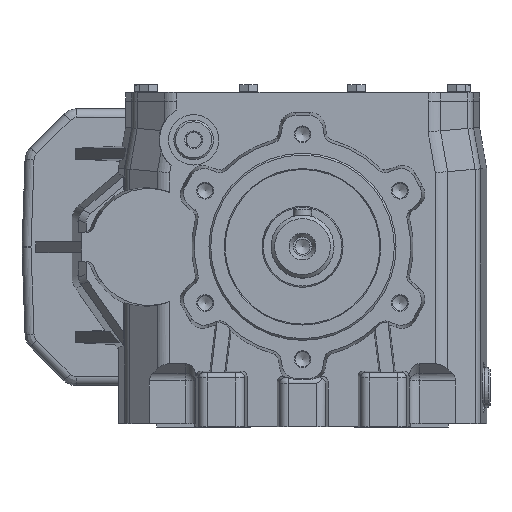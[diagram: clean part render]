
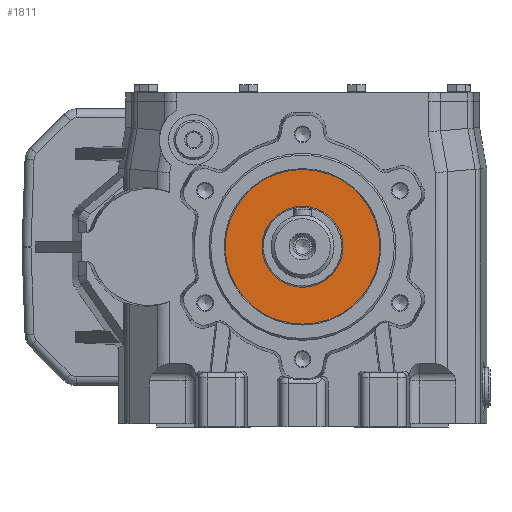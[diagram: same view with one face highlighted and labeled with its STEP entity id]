
A CAD part, top view. The second image highlights one B-rep face of the part: STEP entity #1811.
In plain terms, the highlighted planar face has unit normal (0, 0, 1).
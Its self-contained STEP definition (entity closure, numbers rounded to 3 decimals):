
#1811 = ADVANCED_FACE( '', ( #4266, #4267 ), #4268, .F. );
#4266 = FACE_BOUND( '', #7946, .T. );
#4267 = FACE_OUTER_BOUND( '', #7947, .T. );
#4268 = PLANE( '', #7948 );
#7946 = EDGE_LOOP( '', ( #13905 ) );
#7947 = EDGE_LOOP( '', ( #13906 ) );
#7948 = AXIS2_PLACEMENT_3D( '', #13907, #13908, #13909 );
#13905 = ORIENTED_EDGE( '', *, *, #19749, .F. );
#13906 = ORIENTED_EDGE( '', *, *, #19750, .T. );
#13907 = CARTESIAN_POINT( '', ( 0., 42.5, 12.5 ) );
#13908 = DIRECTION( '', ( 0., 0., -1. ) );
#13909 = DIRECTION( '', ( 1., 0., 0. ) );
#19749 = EDGE_CURVE( '', #23681, #23681, #23682, .T. );
#19750 = EDGE_CURVE( '', #23683, #23683, #23684, .F. );
#23681 = VERTEX_POINT( '', #29756 );
#23682 = CIRCLE( '', #29757, 22.5 );
#23683 = VERTEX_POINT( '', #29758 );
#23684 = CIRCLE( '', #29759, 43. );
#29756 = CARTESIAN_POINT( '', ( 22.5, 0., 12.5 ) );
#29757 = AXIS2_PLACEMENT_3D( '', #34121, #34122, #34123 );
#29758 = CARTESIAN_POINT( '', ( 0., 43., 12.5 ) );
#29759 = AXIS2_PLACEMENT_3D( '', #34124, #34125, #34126 );
#34121 = CARTESIAN_POINT( '', ( 0., 0., 12.5 ) );
#34122 = DIRECTION( '', ( 0., 0., 1. ) );
#34123 = DIRECTION( '', ( 1., 0., 0. ) );
#34124 = CARTESIAN_POINT( '', ( 0., 0., 12.5 ) );
#34125 = DIRECTION( '', ( 0., 0., -1. ) );
#34126 = DIRECTION( '', ( 0., 1., 0. ) );
